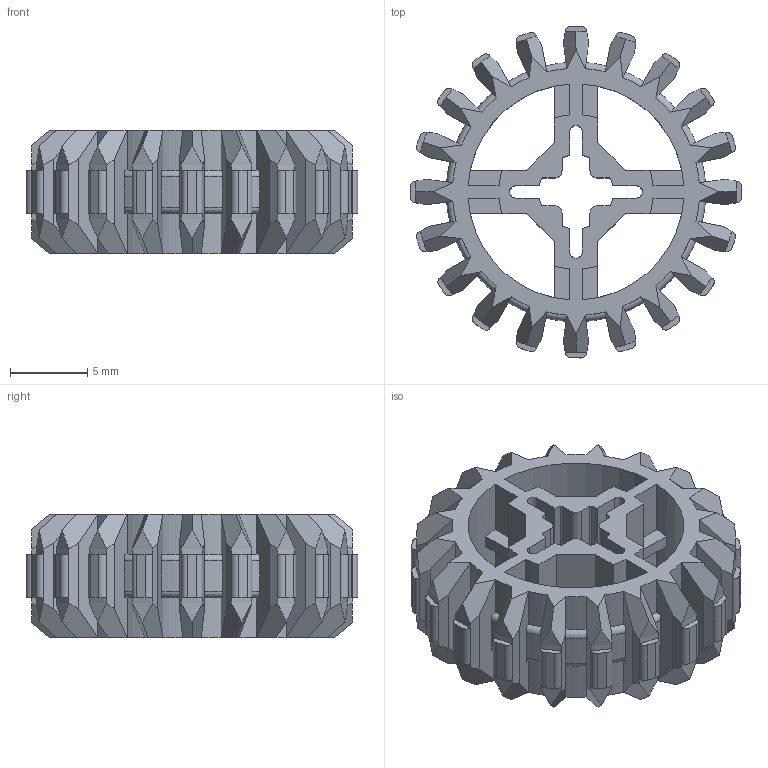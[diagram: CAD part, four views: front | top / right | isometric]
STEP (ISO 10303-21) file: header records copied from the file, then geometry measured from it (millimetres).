
FILE_DESCRIPTION(/* description */ ('Unknown'),/* implementation_level */ '2;1');
FILE_NAME(/* name */ 'Sand_4514555_AVV',/* time_stamp */ '2025-07-22T00:04:23+02:00',/* author */ ('Unknown'),/* organization */ ('Unknown'),/* preprocessor_version */ 'ST-DEVELOPER v19.4',/* originating_system */ 'Solid Edge',/* authorisation */ 'Unknown');
FILE_SCHEMA (('AUTOMOTIVE_DESIGN {1 0 10303 214 3 1 1}'));
Length unit declared in the file: millimetre
Products named in the file (1): Sand_4514555_AVV
Bounding box: 21.5 x 21.5 x 8 mm (x, y, z)
Volume: 1218.8 mm3; surface area: 2373.6 mm2
Topology: 1 solids, 1 shells, 544 faces, 1542 edges, 924 vertices
Faces by surface type: plane 320, cylinder 222, torus 2
Entity records: 17634 total; most frequent: CARTESIAN_POINT 3143, DIRECTION 3126, ORIENTED_EDGE 3084, EDGE_CURVE 1542, AXIS2_PLACEMENT_3D 1083, LINE 960, VECTOR 960, VERTEX_POINT 924
